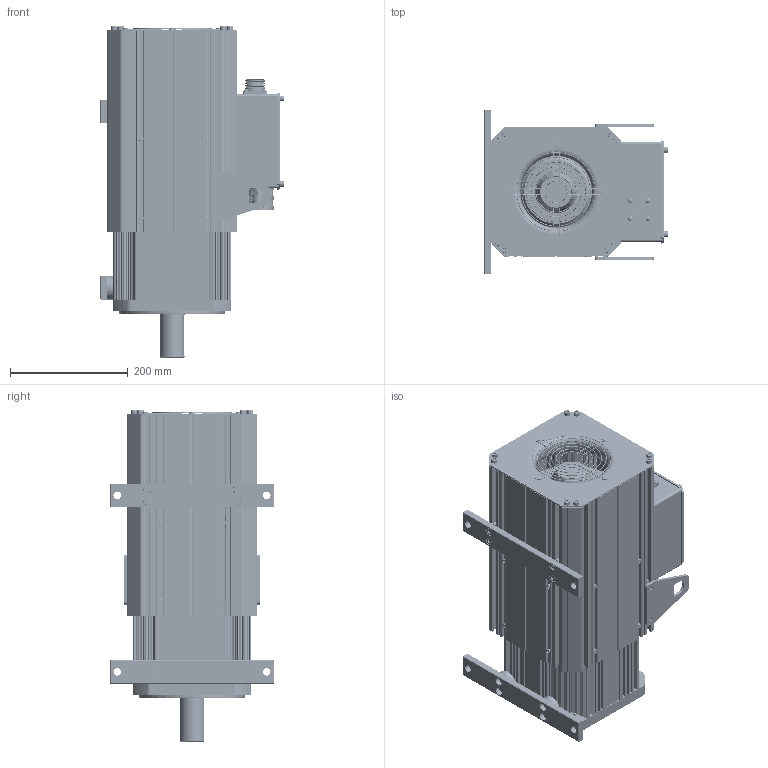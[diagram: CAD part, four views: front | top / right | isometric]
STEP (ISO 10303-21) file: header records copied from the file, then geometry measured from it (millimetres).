
FILE_DESCRIPTION((''),'2;1');
FILE_NAME('K111F15C18P_18KW_ASM','2023-05-23T14:21:26',('admin'),(''),'CREO PARAMETRIC BY PTC INC, 2019080','CREO PARAMETRIC BY PTC INC, 2019080','');
FILE_SCHEMA(('CONFIG_CONTROL_DESIGN'));
Products named in the file (45): QDG_10600-00001; ZZ_12400-04005_18KW; ZC_30400-00001; ZC_30400-01002; ZCZDQ_11200-00001; ZZZJ_80500-04005_18KW_ASM; O-RING_50000-01002; JK_K111_10200-39040; DZZJ_80200-00083_15KW_ASM; FDB_K111_12900-66067; DEGDT_11500-02003; DE_11300-00001; O-RING_50000-02003; YXHQ_20300-00001; O-RING_50000-03004; JXHT_41000-09010; JXHG_41000-00001; JXHGDK_11600-04005; M6X10; XJD_50800-11012; AD13_1; AD42P5_3; MFD_YD28-15P; HKXZ_YD28-15P_40100-00001; PDLD_4X12; JXHZJ_81100-00002_ASM; M5X25; HDG_21200-00001; M8X30; HGB_21600-00001; M4X10; FJ_40000-03004; M4X12; FJFHB_11100-02003; FHW_30500-00001; PDQ_4; MD_4; FJFHBZZ_ASM; QZCJ_10400-15016; DK_12800-32033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
Assembly tree (114 placements, depth 3):
  K111F15C18P_18KW_ASM
    QDG_10600-00001
    ZZZJ_80500-04005_18KW_ASM
      ZZ_12400-04005_18KW
      ZC_30400-00001
      ZC_30400-01002
      ZCZDQ_11200-00001
    O-RING_50000-01002
    DZZJ_80200-00083_15KW_ASM
      JK_K111_10200-39040
    FDB_K111_12900-66067
    DEGDT_11500-02003  x2
    DE_11300-00001  x2
    O-RING_50000-02003
    YXHQ_20300-00001
    O-RING_50000-03004
    JXHZJ_81100-00002_ASM
      JXHT_41000-09010
      JXHG_41000-00001
      JXHGDK_11600-04005  x4
      M6X10  x8
      XJD_50800-11012
      AD13_1
      AD42P5_3
      MFD_YD28-15P
      HKXZ_YD28-15P_40100-00001
      PDLD_4X12  x4
    M5X25  x16
    HDG_21200-00001
    M8X30  x16
    HGB_21600-00001
    M4X10  x4
    FJ_40000-03004
    M4X12  x4
    FJFHBZZ_ASM
      FJFHB_11100-02003
      FHW_30500-00001
      PDQ_4  x4
      MD_4  x4
    M6X10  x8
    ZCJZJ_22300-00007_15KW_ASM
      QZCJ_10400-15016
      DK_12800-32033  x2
      HZCJ_10400-16017
      GDK_11600-09010  x2
      M8X16  x4
Bounding box: 312.35 x 278 x 563 mm (x, y, z)
Volume: 8018570.6 mm3; surface area: 2857234.9 mm2
Topology: 123 solids, 127 shells, 6025 faces, 15826 edges, 10239 vertices
Faces by surface type: plane 2899, cylinder 2331, cone 350, torus 267, bspline 160, sphere 18
Entity records: 164421 total; most frequent: CARTESIAN_POINT 39871, DIRECTION 26411, ORIENTED_EDGE 25900, EDGE_CURVE 12958, AXIS2_PLACEMENT_3D 9354, VERTEX_POINT 8472, VECTOR 7703, LINE 7703
